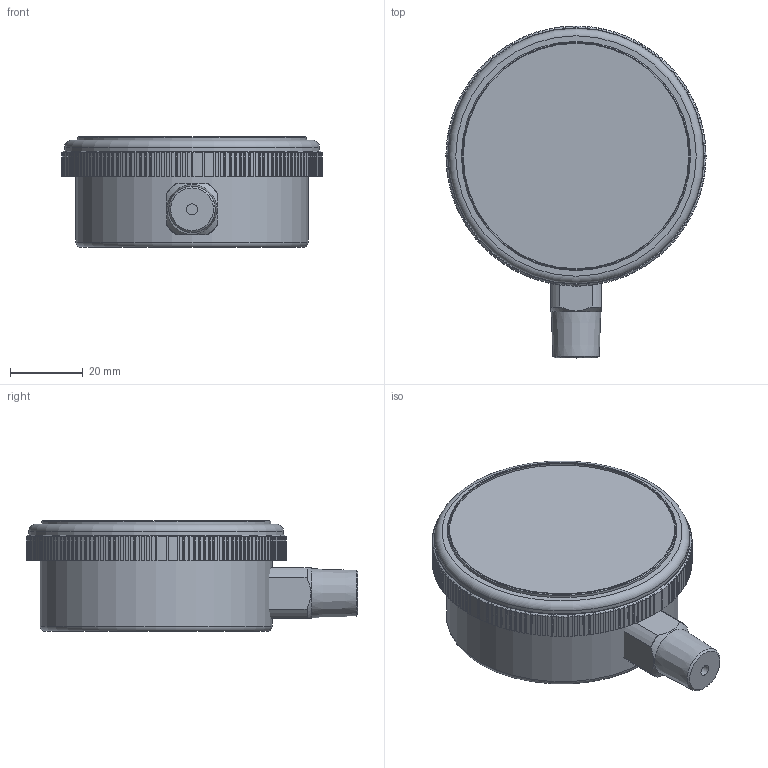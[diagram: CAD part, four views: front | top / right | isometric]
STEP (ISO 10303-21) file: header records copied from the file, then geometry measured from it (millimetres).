
FILE_DESCRIPTION(/* description */ (''),/* implementation_level */ '2;1');
FILE_NAME(/* name */ 'P800_63PI_LOW MOUNT_NPT(M).stp',/* time_stamp */ '2025-03-31T08:32:28+09:00',/* author */ ('wise-209'),/* organization */ (''),/* preprocessor_version */ 'ST-DEVELOPER v19.2',/* originating_system */ 'Autodesk Inventor 2024',/* authorisation */ '');
FILE_SCHEMA (('AUTOMOTIVE_DESIGN { 1 0 10303 214 3 1 1 }'));
Length unit declared in the file: millimetre
Products named in the file (3): P8X0_63mm_A Type_NPT_ASSY; COVER; P830_50mm_F Type_14in NPT_SHANK
Assembly tree (2 placements, depth 2):
  P8X0_63mm_A Type_NPT_ASSY
    COVER
    P830_50mm_F Type_14in NPT_SHANK
Bounding box: 71.5 x 91.25 x 30.5 mm (x, y, z)
Volume: 109907.3 mm3; surface area: 16712.5 mm2
Topology: 2 solids, 2 shells, 609 faces, 1799 edges, 1198 vertices
Faces by surface type: plane 448, cylinder 152, cone 7, torus 2
Full cylindrical faces by diameter (mm): 3 x1, 63 x1, 63.8 x1, 70.1 x1
Entity records: 20160 total; most frequent: CARTESIAN_POINT 3911, ORIENTED_EDGE 3598, DIRECTION 3199, EDGE_CURVE 1799, LINE 1327, VECTOR 1327, VERTEX_POINT 1198, AXIS2_PLACEMENT_3D 936
